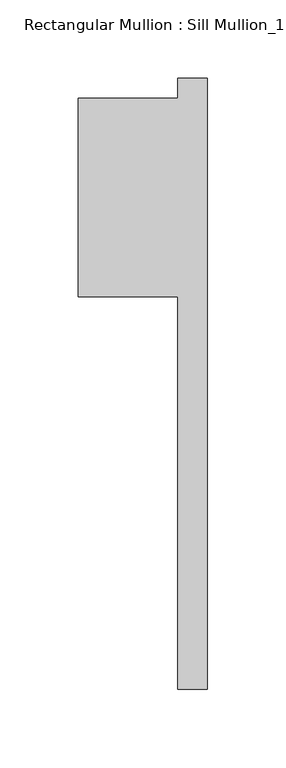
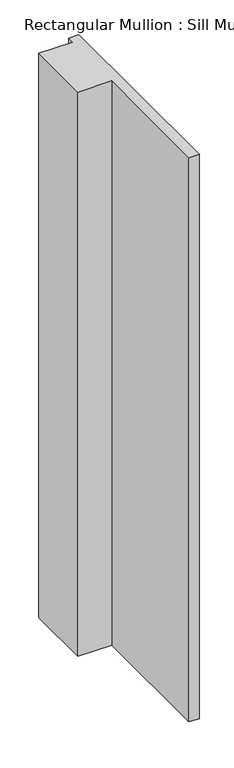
"""IFC4 building model written with IfcOpenShell, lengths in millimetres: member geometry."""

from ifc_helpers import new_model, si_unit, frame, origin, place, context, project, spatial, polyline, outline, extrude, source, transform, mapped, element, save


def member_9a10a563(model_context):
    return source(origin(), model_context, "Body", "SweptSolid", [
        extrude(outline(polyline([(-82.55, -50.8), (-82.55, 76.2), (-19.05, 76.2), (-19.05, 88.9), (0.0, 88.9), (0.0, -301.625), (-19.05, -301.625), (-19.05, -50.8), (-82.55, -50.8)])), frame((0.0, 0.0, -1119.1875), z_axis=(0.0, 0.0, 1.0), x_axis=(1.0, 0.0, 0.0)), (0.0, 0.0, 1.0), 1119.1875),
    ])


if __name__ == "__main__":
    model = new_model("IFC4")
    model_context = context("Model", 3, world=origin())
    ifc_project = project(units=[si_unit("LENGTHUNIT", "METRE", prefix="MILLI")], contexts=[model_context])
    site = spatial("IfcSite", under=ifc_project)
    building = spatial("IfcBuilding", under=site)
    placement = place(None, origin())
    member_shape = member_9a10a563(model_context)
    element("IfcMember", 1, ObjectType="Rectangular Mullion : Sill Mullion_15\" thick wall", at=placement, inside=building, context=model_context, shape_type="MappedRepresentation", body=[
        mapped(member_shape, transform((0.0, 0.0, 0.0), x_axis=(1.0, 0.0, 0.0), y_axis=(0.0, 1.0, 0.0), z_axis=(0.0, 0.0, 1.0))),
    ])
    save(model, "model.ifc")
